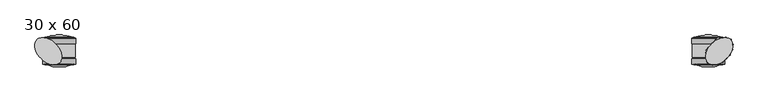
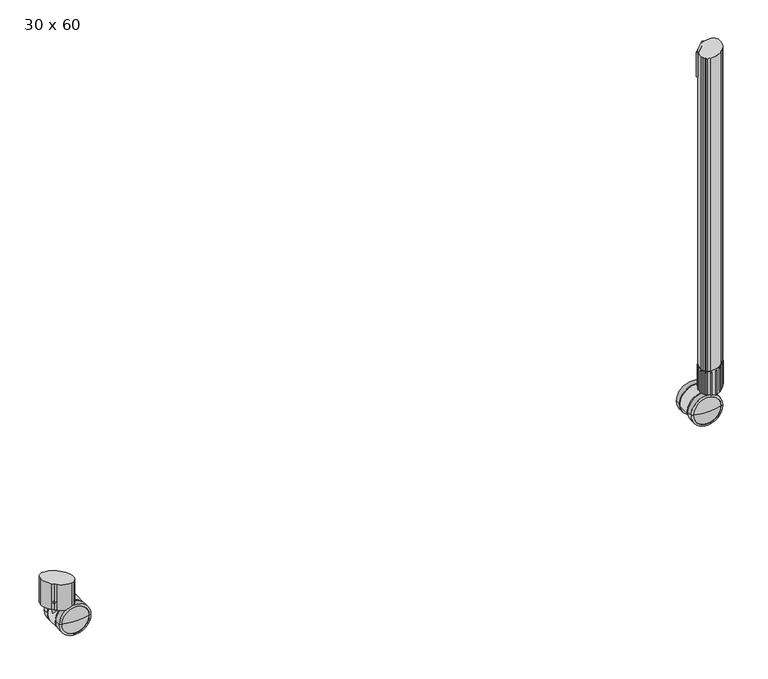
"""IFC4 building model written with IfcOpenShell, lengths in millimetres: furniture geometry, SmithSystem_AM_Desking_Education_Interchange_Student_Activity : 30 x 60."""

from ifc_helpers import new_model, si_unit, point, frame, frame_2d, origin, place, context, project, spatial, polyline, circle_curve, ellipse_curve, trimmed, segment, composite_curve, outline, extrude, source, transform, mapped, element, save
from ifc_brep_helpers import plane_surface, cylinder_surface, revolved_surface, advanced_brep


def furniture_30_x_60_b2621e60(model_context):
    return source(origin(), model_context, "Body", "SolidModel", [
        advanced_brep(
        [(1479.3682807, -686.5171568, 35.017382), (1479.3682807, -673.2758867, 35.017382), (1418.7629669, -673.2758867, 35.017382), (1418.7629669, -686.5171568, 35.017382), (1483.6326573, -686.5171568, 35.017382), (1414.4985903, -686.5171568, 35.017382), (1483.6326573, -674.7474734, 35.017382), (1414.4985903, -674.7474734, 35.017382)],
        [
            (0, 1),
            (1, 2, circle_curve(frame((1449.0656238, -673.2758867, 35.017382), z_axis=(0.0, 1.0, 0.0), x_axis=(-1.0000000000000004, 0.0, 0.0)), 30.3026569)),
            (2, 3),
            (3, 0, circle_curve(frame((1449.0656238, -686.5171568, 35.017382), z_axis=(0.0, -1.0, 0.0), x_axis=(-1.0000000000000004, 0.0, 0.0)), 30.3026569)),
            (2, 1, circle_curve(frame((1449.0656238, -673.2758867, 35.017382), z_axis=(0.0, 1.0, 0.0), x_axis=(-1.0000000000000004, 0.0, 0.0)), 30.3026569)),
            (0, 3, circle_curve(frame((1449.0656238, -686.5171568, 35.017382), z_axis=(0.0, -1.0, 0.0), x_axis=(-1.0000000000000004, 0.0, 0.0)), 30.3026569)),
            (4, 0),
            (3, 5),
            (5, 4, circle_curve(frame((1449.0656238, -686.5171568, 35.017382), z_axis=(0.0, -1.0, 0.0), x_axis=(-1.0000000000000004, 0.0, 0.0)), 34.5670335)),
            (4, 5, circle_curve(frame((1449.0656238, -686.5171568, 35.017382), z_axis=(0.0, -1.0, 0.0), x_axis=(-1.0000000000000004, 0.0, 0.0)), 34.5670335)),
            (6, 4),
            (5, 7),
            (7, 6, circle_curve(frame((1449.0656238, -674.7474734, 35.017382), z_axis=(0.0, -1.0, 0.0), x_axis=(-1.0000000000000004, 0.0, 0.0)), 34.5670335)),
            (6, 7, circle_curve(frame((1449.0656238, -674.7474734, 35.017382), z_axis=(0.0, -1.0, 0.0), x_axis=(-1.0000000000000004, 0.0, 0.0)), 34.5670335)),
            (1, 6),
            (7, 2),
        ],
        [
            revolved_surface(polyline([(1418.7629668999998, -673.2758867, 35.017382), (1418.7629668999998, -686.5171568, 35.017382)]), (1449.0656238, -686.5171568, 35.017382), (0.0, 1.0, 0.0)),
            plane_surface(frame((1449.0656238, -686.5171568, 35.017382), z_axis=(0.0, -1.0, 0.0), x_axis=(-1.0, 0.0, 0.0))),
            cylinder_surface(frame((1449.0656238, -686.5171568, 35.017382), z_axis=(0.0, 1.0, 0.0), x_axis=(-1.0000000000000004, 0.0, 0.0)), 34.5670335),
            revolved_surface(polyline([(1414.4985903, -674.7474734, 35.017382), (1418.7629669, -673.2758867, 35.017382)]), (1449.0656238, -686.5171568, 35.017382), (0.0, 1.0, 0.0)),
        ],
        [
            (0, [[1, 2, 3, 4]]),
            (0, [[-3, 5, -1, 6]]),
            (1, [[7, -4, 8, 9]]),
            (1, [[-8, -6, -7, 10]]),
            (2, [[11, -9, 12, 13]]),
            (2, [[-12, -10, -11, 14]]),
            (3, [[15, -13, 16, -2]]),
            (3, [[-16, -14, -15, -5]]),
        ],
    ),
        advanced_brep(
        [(1483.6326573, -730.1295585, 35.017382), (1479.3682807, -731.6011452, 35.017382), (1418.7629669, -731.6011452, 35.017382), (1414.4985903, -730.1295585, 35.017382), (1483.6326573, -718.3598751, 35.017382), (1414.4985903, -718.3598751, 35.017382), (1479.3682807, -718.3598751, 35.017382), (1418.7629669, -718.3598751, 35.017382)],
        [
            (0, 1),
            (1, 2, circle_curve(frame((1449.0656238, -731.6011452, 35.017382), z_axis=(0.0, 1.0, 0.0), x_axis=(-1.0000000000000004, 0.0, 0.0)), 30.3026569)),
            (2, 3),
            (3, 0, circle_curve(frame((1449.0656238, -730.1295585, 35.017382), z_axis=(0.0, -1.0, 0.0), x_axis=(-1.0000000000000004, 0.0, 0.0)), 34.5670335)),
            (2, 1, circle_curve(frame((1449.0656238, -731.6011452, 35.017382), z_axis=(0.0, 1.0, 0.0), x_axis=(-1.0000000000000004, 0.0, 0.0)), 30.3026569)),
            (0, 3, circle_curve(frame((1449.0656238, -730.1295585, 35.017382), z_axis=(0.0, -1.0, 0.0), x_axis=(-1.0000000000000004, 0.0, 0.0)), 34.5670335)),
            (4, 0),
            (3, 5),
            (5, 4, circle_curve(frame((1449.0656238, -718.3598751, 35.017382), z_axis=(0.0, -1.0, 0.0), x_axis=(-1.0000000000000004, 0.0, 0.0)), 34.5670335)),
            (4, 5, circle_curve(frame((1449.0656238, -718.3598751, 35.017382), z_axis=(0.0, -1.0, 0.0), x_axis=(-1.0000000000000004, 0.0, 0.0)), 34.5670335)),
            (6, 4),
            (5, 7),
            (7, 6, circle_curve(frame((1449.0656238, -718.3598751, 35.017382), z_axis=(0.0, -1.0, 0.0), x_axis=(-1.0000000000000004, 0.0, 0.0)), 30.3026569)),
            (6, 7, circle_curve(frame((1449.0656238, -718.3598751, 35.017382), z_axis=(0.0, -1.0, 0.0), x_axis=(-1.0000000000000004, 0.0, 0.0)), 30.3026569)),
            (1, 6),
            (7, 2),
        ],
        [
            revolved_surface(polyline([(1418.7629669, -731.6011452, 35.017382), (1414.4985903, -730.1295585, 35.017382)]), (1449.0656238, -686.5171568, 35.017382), (0.0, 1.0, 0.0)),
            cylinder_surface(frame((1449.0656238, -686.5171568, 35.017382), z_axis=(0.0, 1.0, 0.0), x_axis=(-1.0000000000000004, 0.0, 0.0)), 34.5670335),
            plane_surface(frame((1449.0656238, -718.3598751, 35.017382), z_axis=(0.0, 1.0, 0.0), x_axis=(-1.0, 0.0, 0.0))),
            revolved_surface(polyline([(1418.7629668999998, -718.3598751, 35.017382), (1418.7629668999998, -731.6011452, 35.017382)]), (1449.0656238, -686.5171568, 35.017382), (0.0, 1.0, 0.0)),
        ],
        [
            (0, [[1, 2, 3, 4]]),
            (0, [[-3, 5, -1, 6]]),
            (1, [[7, -4, 8, 9]]),
            (1, [[-8, -6, -7, 10]]),
            (2, [[11, -9, 12, 13]]),
            (2, [[-12, -10, -11, 14]]),
            (3, [[15, -13, 16, -2]]),
            (3, [[-16, -14, -15, -5]]),
        ],
    ),
        extrude(outline(composite_curve([segment(polyline([(19.2150301, 1452.4697558), (19.2150301, 1479.476395)]), True, "CONTINUOUS"), segment(trimmed(circle_curve(frame_2d((35.017382, 1449.0656238)), 34.2714069), [point((19.2150301, 1479.476395))], [point((30.4371053, 1415.1016665))], False, "CARTESIAN"), True, "CONTINUOUS"), segment(polyline([(30.4371053, 1415.1016665), (25.5146264, 1423.9644339), (25.5146264, 1446.1701594), (19.2150301, 1452.4697558)]), True, "CONTINUOUS")], self_intersect=False)), frame((0.0, -715.2347519, 0.0), z_axis=(0.0, 1.0, 0.0), x_axis=(0.0, 0.0, 1.0)), (0.0, 0.0, 1.0), 26.9875),
        advanced_brep(
        [(1479.3682807, -686.5171568, 35.017382), (1449.0656238, -686.5171568, 35.017382), (1418.7629669, -686.5171568, 35.017382), (1449.0656238, -668.1943698, 35.017382), (1479.3682807, -673.2758867, 35.017382), (1418.7629669, -673.2758867, 35.017382)],
        [
            (0, 1),
            (1, 2),
            (2, 0, circle_curve(frame((1449.0656238, -686.5171568, 35.017382), z_axis=(0.0, -1.0, 0.0), x_axis=(-1.0000000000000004, 0.0, 0.0)), 30.3026569)),
            (0, 2, circle_curve(frame((1449.0656238, -686.5171568, 35.017382), z_axis=(0.0, -1.0, 0.0), x_axis=(-1.0000000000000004, 0.0, 0.0)), 30.3026569)),
            (3, 4, circle_curve(frame((1449.0656238, -761.0871862, 35.017382), z_axis=(0.0, 0.0, -1.0000000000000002), x_axis=(0.0, -1.0, 0.0)), 92.8928164)),
            (4, 5, circle_curve(frame((1449.0656238, -673.2758867, 35.017382), z_axis=(0.0, 1.0, 0.0), x_axis=(-1.0000000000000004, 0.0, 0.0)), 30.3026569)),
            (5, 3, circle_curve(frame((1449.0656238, -761.0871862, 35.017382), z_axis=(0.0, 0.0, -1.0000000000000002), x_axis=(0.0, -1.0, 0.0)), 92.8928164)),
            (5, 4, circle_curve(frame((1449.0656238, -673.2758867, 35.017382), z_axis=(0.0, 1.0, 0.0), x_axis=(-1.0000000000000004, 0.0, 0.0)), 30.3026569)),
            (4, 0),
            (2, 5),
        ],
        [
            plane_surface(frame((1449.0656238, -686.5171568, 35.017382), z_axis=(0.0, -1.0, 0.0), x_axis=(-1.0, 0.0, 0.0))),
            revolved_surface(trimmed(ellipse_curve(frame((1449.0656238, -761.0871862, 35.017382), z_axis=(0.0, 0.0, -1.0000000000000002), x_axis=(0.0, -1.0, 0.0)), 92.8928164, 92.8928164), [point((1418.7629669, -673.2758867, 35.017382))], [point((1449.0656238, -668.1943698, 35.017382))], True, "CARTESIAN"), (1449.0656238, -686.5171568, 35.017382), (0.0, 1.0, 0.0)),
            cylinder_surface(frame((1449.0656238, -686.5171568, 35.017382), z_axis=(0.0, 1.0, 0.0), x_axis=(-1.0000000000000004, 0.0, 0.0)), 30.3026569),
        ],
        [
            (0, [[1, 2, 3]]),
            (0, [[-2, -1, 4]]),
            (1, [[5, 6, 7]]),
            (1, [[-7, 8, -5]]),
            (2, [[9, -3, 10, -6]]),
            (2, [[-10, -4, -9, -8]]),
        ],
    ),
        advanced_brep(
        [(1479.3682807, -717.1194939, 35.017382), (1479.3682807, -730.360764, 35.017382), (1418.7629669, -730.360764, 35.017382), (1418.7629669, -717.1194939, 35.017382), (1449.0656238, -735.4422809, 35.017382), (1449.0656238, -717.1194939, 35.017382)],
        [
            (0, 1),
            (1, 2, circle_curve(frame((1449.0656238, -730.360764, 35.017382), z_axis=(0.0, 1.0, 0.0), x_axis=(-1.0000000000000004, 0.0, 0.0)), 30.3026569)),
            (2, 3),
            (3, 0, circle_curve(frame((1449.0656238, -717.1194939, 35.017382), z_axis=(0.0, -1.0, 0.0), x_axis=(-1.0000000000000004, 0.0, 0.0)), 30.3026569)),
            (2, 1, circle_curve(frame((1449.0656238, -730.360764, 35.017382), z_axis=(0.0, 1.0, 0.0), x_axis=(-1.0000000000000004, 0.0, 0.0)), 30.3026569)),
            (0, 3, circle_curve(frame((1449.0656238, -717.1194939, 35.017382), z_axis=(0.0, -1.0, 0.0), x_axis=(-1.0000000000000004, 0.0, 0.0)), 30.3026569)),
            (1, 4, circle_curve(frame((1449.0656238, -642.5494645, 35.017382), z_axis=(0.0, 0.0, -1.0000000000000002), x_axis=(0.0, -1.0, 0.0)), 92.8928164)),
            (4, 2, circle_curve(frame((1449.0656238, -642.5494645, 35.017382), z_axis=(0.0, 0.0, -1.0000000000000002), x_axis=(0.0, -1.0, 0.0)), 92.8928164)),
            (5, 0),
            (3, 5),
        ],
        [
            cylinder_surface(frame((1449.0656238, -686.5171568, 35.017382), z_axis=(0.0, 1.0, 0.0), x_axis=(-1.0000000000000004, 0.0, 0.0)), 30.3026569),
            revolved_surface(trimmed(ellipse_curve(frame((1449.0656238, -642.5494645, 35.017382), z_axis=(0.0, 0.0, -1.0000000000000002), x_axis=(0.0, -1.0, 0.0)), 92.8928164, 92.8928164), [point((1449.0656238, -735.4422809, 35.017382))], [point((1418.7629669, -730.360764, 35.017382))], True, "CARTESIAN"), (1449.0656238, -686.5171568, 35.017382), (0.0, 1.0, 0.0)),
            plane_surface(frame((1449.0656238, -717.1194939, 35.017382), z_axis=(0.0, 1.0, 0.0), x_axis=(-1.0, 0.0, 0.0))),
        ],
        [
            (0, [[1, 2, 3, 4]]),
            (0, [[-3, 5, -1, 6]]),
            (1, [[7, 8, -2]]),
            (1, [[-8, -7, -5]]),
            (2, [[9, -4, 10]]),
            (2, [[-10, -6, -9]]),
        ],
    ),
        advanced_brep(
        [(1472.3098504, -702.4385159, 82.55), (1487.4315397, -717.5602052, 82.55), (1457.1881611, -687.3168266, 82.55), (1479.1455485, -709.274214, 44.141232), (1472.3098504, -702.4385159, 44.141232), (1465.4741524, -695.6028179, 44.141232), (1479.1455485, -709.274214, 70.5739), (1465.4741524, -695.6028179, 70.5739), (1475.4087581, -705.5374236, 70.5739), (1469.2109428, -699.3396083, 70.5739), (1475.4087581, -705.5374236, 72.4789), (1469.2109428, -699.3396083, 72.4789), (1479.1455485, -709.274214, 72.4789), (1465.4741524, -695.6028179, 72.4789), (1479.1455485, -709.274214, 77.5589), (1465.4741524, -695.6028179, 77.5589), (1487.4315397, -717.5602052, 77.5589), (1457.1881611, -687.3168266, 77.5589)],
        [
            (0, 1),
            (1, 2, circle_curve(frame((1472.3098504, -702.4385159, 82.55), z_axis=(0.0, 0.0, 1.0), x_axis=(-0.7071067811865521, 0.707106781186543, 0.0)), 21.3852981)),
            (2, 0),
            (2, 1, circle_curve(frame((1472.3098504, -702.4385159, 82.55), z_axis=(0.0, 0.0, 1.0), x_axis=(-0.7071067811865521, 0.707106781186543, 0.0)), 21.3852981)),
            (3, 4),
            (4, 5),
            (5, 3, circle_curve(frame((1472.3098504, -702.4385159, 44.141232), z_axis=(0.0, 0.0, -1.0), x_axis=(-0.7071067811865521, 0.707106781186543, 0.0)), 9.6671369)),
            (3, 5, circle_curve(frame((1472.3098504, -702.4385159, 44.141232), z_axis=(0.0, 0.0, -1.0), x_axis=(-0.7071067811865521, 0.707106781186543, 0.0)), 9.6671369)),
            (6, 3),
            (5, 7),
            (7, 6, circle_curve(frame((1472.3098504, -702.4385159, 70.5739), z_axis=(0.0, 0.0, -1.0), x_axis=(-0.7071067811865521, 0.707106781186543, 0.0)), 9.6671369)),
            (6, 7, circle_curve(frame((1472.3098504, -702.4385159, 70.5739), z_axis=(0.0, 0.0, -1.0), x_axis=(-0.7071067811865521, 0.707106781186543, 0.0)), 9.6671369)),
            (8, 6),
            (7, 9),
            (9, 8, circle_curve(frame((1472.3098504, -702.4385159, 70.5739), z_axis=(0.0, 0.0, -1.0), x_axis=(-0.7071067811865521, 0.707106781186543, 0.0)), 4.3825172)),
            (8, 9, circle_curve(frame((1472.3098504, -702.4385159, 70.5739), z_axis=(0.0, 0.0, -1.0), x_axis=(-0.7071067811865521, 0.707106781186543, 0.0)), 4.3825172)),
            (10, 8),
            (9, 11),
            (11, 10, circle_curve(frame((1472.3098504, -702.4385159, 72.4789), z_axis=(0.0, 0.0, -1.0), x_axis=(-0.7071067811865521, 0.707106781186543, 0.0)), 4.3825172)),
            (10, 11, circle_curve(frame((1472.3098504, -702.4385159, 72.4789), z_axis=(0.0, 0.0, -1.0), x_axis=(-0.7071067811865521, 0.707106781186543, 0.0)), 4.3825172)),
            (12, 10),
            (11, 13),
            (13, 12, circle_curve(frame((1472.3098504, -702.4385159, 72.4789), z_axis=(0.0, 0.0, -1.0), x_axis=(-0.7071067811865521, 0.707106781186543, 0.0)), 9.6671369)),
            (12, 13, circle_curve(frame((1472.3098504, -702.4385159, 72.4789), z_axis=(0.0, 0.0, -1.0), x_axis=(-0.7071067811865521, 0.707106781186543, 0.0)), 9.6671369)),
            (14, 12),
            (13, 15),
            (15, 14, circle_curve(frame((1472.3098504, -702.4385159, 77.5589), z_axis=(0.0, 0.0, -1.0), x_axis=(-0.7071067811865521, 0.707106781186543, 0.0)), 9.6671369)),
            (14, 15, circle_curve(frame((1472.3098504, -702.4385159, 77.5589), z_axis=(0.0, 0.0, -1.0), x_axis=(-0.7071067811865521, 0.707106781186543, 0.0)), 9.6671369)),
            (16, 14),
            (15, 17),
            (17, 16, circle_curve(frame((1472.3098504, -702.4385159, 77.5589), z_axis=(0.0, 0.0, -1.0), x_axis=(-0.7071067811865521, 0.707106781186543, 0.0)), 21.3852981)),
            (16, 17, circle_curve(frame((1472.3098504, -702.4385159, 77.5589), z_axis=(0.0, 0.0, -1.0), x_axis=(-0.7071067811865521, 0.707106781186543, 0.0)), 21.3852981)),
            (1, 16),
            (17, 2),
        ],
        [
            plane_surface(frame((1472.3098504, -702.4385159, 82.55), z_axis=(0.0, 0.0, 1.0000000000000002), x_axis=(-0.7071067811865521, 0.707106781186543, 0.0))),
            plane_surface(frame((1472.3098504, -702.4385159, 44.141232), z_axis=(0.0, 0.0, -1.0000000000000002), x_axis=(-0.7071067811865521, 0.707106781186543, 0.0))),
            cylinder_surface(frame((1472.3098504, -702.4385159, 56.841232), z_axis=(0.0, 0.0, 1.0), x_axis=(-0.7071067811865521, 0.707106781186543, 0.0)), 9.6671369),
            plane_surface(frame((1472.3098504, -702.4385159, 70.5739), z_axis=(0.0, 0.0, 1.0000000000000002), x_axis=(-0.7071067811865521, 0.707106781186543, 0.0))),
            cylinder_surface(frame((1472.3098504, -702.4385159, 56.841232), z_axis=(0.0, 0.0, 1.0), x_axis=(-0.7071067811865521, 0.707106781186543, 0.0)), 4.3825172),
            plane_surface(frame((1472.3098504, -702.4385159, 72.4789), z_axis=(0.0, 0.0, -1.0000000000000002), x_axis=(-0.7071067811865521, 0.707106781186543, 0.0))),
            plane_surface(frame((1472.3098504, -702.4385159, 77.5589), z_axis=(0.0, 0.0, -1.0000000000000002), x_axis=(-0.7071067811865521, 0.707106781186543, 0.0))),
            cylinder_surface(frame((1472.3098504, -702.4385159, 56.841232), z_axis=(0.0, 0.0, 1.0), x_axis=(-0.7071067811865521, 0.707106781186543, 0.0)), 21.3852981),
        ],
        [
            (0, [[1, 2, 3]]),
            (0, [[-3, 4, -1]]),
            (1, [[5, 6, 7]]),
            (1, [[-6, -5, 8]]),
            (2, [[9, -7, 10, 11]]),
            (2, [[-10, -8, -9, 12]]),
            (3, [[13, -11, 14, 15]]),
            (3, [[-14, -12, -13, 16]]),
            (4, [[17, -15, 18, 19]]),
            (4, [[-18, -16, -17, 20]]),
            (5, [[21, -19, 22, 23]]),
            (5, [[-22, -20, -21, 24]]),
            (2, [[25, -23, 26, 27]]),
            (2, [[-26, -24, -25, 28]]),
            (6, [[29, -27, 30, 31]]),
            (6, [[-30, -28, -29, 32]]),
            (7, [[33, -31, 34, -2]]),
            (7, [[-34, -32, -33, -4]]),
        ],
    ),
        extrude(outline(composite_curve([segment(polyline([(1453.4549731, -690.7678435), (1457.0470756, -687.175741), (1460.639178, -683.5836386)]), True, "CONTINUOUS"), segment(trimmed(circle_curve(frame_2d((1483.6806347, -706.6250953)), 32.5855406), [point((1460.639178, -683.5836386))], [point((1487.6518132, -674.2824424))], False, "CARTESIAN"), True, "CONTINUOUS"), segment(trimmed(circle_curve(frame_2d((1485.2540831, -693.8103864)), 19.6745954), [point((1487.6518132, -674.2824424))], [point((1492.8048334, -675.6423959))], False, "CARTESIAN"), True, "CONTINUOUS"), segment(trimmed(circle_curve(frame_2d((1489.3695797, -683.9080191)), 8.9510611), [point((1492.8048334, -675.6423959))], [point((1495.6989357, -677.5786631))], False, "CARTESIAN"), True, "CONTINUOUS"), segment(polyline([(1495.6989357, -677.5786631), (1496.4343195, -678.3140469), (1497.1697032, -679.0494307)]), True, "CONTINUOUS"), segment(trimmed(circle_curve(frame_2d((1490.8403472, -685.3787867)), 8.9510611), [point((1497.1697032, -679.0494307))], [point((1499.1059704, -681.943533))], False, "CARTESIAN"), True, "CONTINUOUS"), segment(trimmed(circle_curve(frame_2d((1480.93798, -689.4942832)), 19.6745954), [point((1499.1059704, -681.943533))], [point((1500.465924, -687.0965532))], False, "CARTESIAN"), True, "CONTINUOUS"), segment(trimmed(circle_curve(frame_2d((1468.123271, -691.0677316)), 32.5855406), [point((1500.465924, -687.0965532))], [point((1491.1647278, -714.1091884))], False, "CARTESIAN"), True, "CONTINUOUS"), segment(polyline([(1491.1647278, -714.1091884), (1487.5726253, -717.7012908), (1483.9805229, -721.2933933)]), True, "CONTINUOUS"), segment(trimmed(circle_curve(frame_2d((1460.9390661, -698.2519365)), 32.5855406), [point((1483.9805229, -721.2933933))], [point((1456.9678877, -730.5945895))], False, "CARTESIAN"), True, "CONTINUOUS"), segment(trimmed(circle_curve(frame_2d((1459.3656177, -711.0666455)), 19.6745954), [point((1456.9678877, -730.5945895))], [point((1451.8148675, -729.2346359))], False, "CARTESIAN"), True, "CONTINUOUS"), segment(trimmed(circle_curve(frame_2d((1455.2501212, -720.9690127)), 8.9510611), [point((1451.8148675, -729.2346359))], [point((1448.9207652, -727.2983687))], False, "CARTESIAN"), True, "CONTINUOUS"), segment(polyline([(1448.9207652, -727.2983687), (1448.1853814, -726.5629849), (1447.4499976, -725.8276012)]), True, "CONTINUOUS"), segment(trimmed(circle_curve(frame_2d((1453.7793536, -719.4982452)), 8.9510611), [point((1447.4499976, -725.8276012))], [point((1445.5137305, -722.9334989))], False, "CARTESIAN"), True, "CONTINUOUS"), segment(trimmed(circle_curve(frame_2d((1463.6817209, -715.3827486)), 19.6745954), [point((1445.5137305, -722.9334989))], [point((1444.1537769, -717.7804787))], False, "CARTESIAN"), True, "CONTINUOUS"), segment(trimmed(circle_curve(frame_2d((1476.4964298, -713.8093002)), 32.5855406), [point((1444.1537769, -717.7804787))], [point((1453.4549731, -690.7678435))], False, "CARTESIAN"), True, "CONTINUOUS")], self_intersect=False)), frame((0.0, 0.0, 63.4997351), z_axis=(0.0, 0.0, 1.0), x_axis=(1.0, 0.0, 0.0)), (0.0, 0.0, 1.0), 59.42631),
        extrude(outline(composite_curve([segment(trimmed(circle_curve(frame_2d((1487.5726253, -717.7012908)), 1.27), [point((1488.4706509, -716.8032652))], [point((1486.6745997, -718.5993164))], False, "CARTESIAN"), True, "CONTINUOUS"), segment(polyline([(1486.6745997, -718.5993164), (1487.5726253, -717.7012908), (1488.4706509, -716.8032652)]), True, "CONTINUOUS")], self_intersect=False)), frame((0.0, 0.0, 67.2639757), z_axis=(0.0, 0.0, 1.0), x_axis=(1.0, 0.0, 0.0)), (0.0, 0.0, 1.0), 52.9554897),
        extrude(outline(composite_curve([segment(trimmed(circle_curve(frame_2d((1496.4080101, -678.3403563)), 1.27), [point((1495.5099845, -677.4423306))], [point((1497.3060357, -679.2383819))], False, "CARTESIAN"), True, "CONTINUOUS"), segment(polyline([(1497.3060357, -679.2383819), (1496.4080101, -678.3403563), (1495.5099845, -677.4423306)]), True, "CONTINUOUS")], self_intersect=False)), frame((0.0, 0.0, 67.2639757), z_axis=(0.0, 0.0, 1.0), x_axis=(1.0, 0.0, 0.0)), (0.0, 0.0, 1.0), 52.9554897),
        extrude(outline(composite_curve([segment(polyline([(1447.3136652, -725.63865), (1448.2116908, -726.5366756), (1449.1097164, -727.4347012)]), True, "CONTINUOUS"), segment(trimmed(circle_curve(frame_2d((1448.2116908, -726.5366756)), 1.27), [point((1449.1097164, -727.4347012))], [point((1447.3136652, -725.63865))], False, "CARTESIAN"), True, "CONTINUOUS")], self_intersect=False)), frame((0.0, 0.0, 67.2639757), z_axis=(0.0, 0.0, 1.0), x_axis=(1.0, 0.0, 0.0)), (0.0, 0.0, 1.0), 52.9554897),
        extrude(outline(composite_curve([segment(polyline([(1456.8120338, -730.5560515), (1458.0779787, -730.6574596), (1459.3439236, -730.7588676)]), True, "CONTINUOUS"), segment(trimmed(circle_curve(frame_2d((1458.0779787, -730.6574596)), 1.27), [point((1459.3439236, -730.7588676))], [point((1456.8120338, -730.5560515))], False, "CARTESIAN"), True, "CONTINUOUS")], self_intersect=False)), frame((0.0, 0.0, 67.2639757), z_axis=(0.0, 0.0, 1.0), x_axis=(1.0, 0.0, 0.0)), (0.0, 0.0, 1.0), 52.9554897),
        extrude(outline(composite_curve([segment(polyline([(1467.8909581, -730.039674), (1469.1209477, -729.7234059), (1470.3509373, -729.4071377)]), True, "CONTINUOUS"), segment(trimmed(circle_curve(frame_2d((1469.1209477, -729.7234059)), 1.27), [point((1470.3509373, -729.4071377))], [point((1467.8909581, -730.039674))], False, "CARTESIAN"), True, "CONTINUOUS")], self_intersect=False)), frame((0.0, 0.0, 67.2639757), z_axis=(0.0, 0.0, 1.0), x_axis=(1.0, 0.0, 0.0)), (0.0, 0.0, 1.0), 52.9554897),
        extrude(outline(composite_curve([segment(polyline([(1478.2294057, -725.8418329), (1479.2770478, -725.1239568), (1480.3246899, -724.4060807)]), True, "CONTINUOUS"), segment(trimmed(circle_curve(frame_2d((1479.2770478, -725.1239568)), 1.27), [point((1480.3246899, -724.4060807))], [point((1478.2294057, -725.8418329))], False, "CARTESIAN"), True, "CONTINUOUS")], self_intersect=False)), frame((0.0, 0.0, 67.2639757), z_axis=(0.0, 0.0, 1.0), x_axis=(1.0, 0.0, 0.0)), (0.0, 0.0, 1.0), 52.9554897),
        extrude(outline(composite_curve([segment(trimmed(circle_curve(frame_2d((1500.5287941, -688.2066442)), 1.27), [point((1500.427386, -686.9406993))], [point((1500.6302021, -689.4725891))], False, "CARTESIAN"), True, "CONTINUOUS"), segment(polyline([(1500.6302021, -689.4725891), (1500.5287941, -688.2066442), (1500.427386, -686.9406993)]), True, "CONTINUOUS")], self_intersect=False)), frame((0.0, 0.0, 67.2639757), z_axis=(0.0, 0.0, 1.0), x_axis=(1.0, 0.0, 0.0)), (0.0, 0.0, 1.0), 52.9554897),
        extrude(outline(composite_curve([segment(trimmed(circle_curve(frame_2d((1499.5947404, -699.2496132)), 1.27), [point((1499.9110085, -698.0196236))], [point((1499.2784722, -700.4796028))], False, "CARTESIAN"), True, "CONTINUOUS"), segment(polyline([(1499.2784722, -700.4796028), (1499.5947404, -699.2496132), (1499.9110085, -698.0196236)]), True, "CONTINUOUS")], self_intersect=False)), frame((0.0, 0.0, 67.2639757), z_axis=(0.0, 0.0, 1.0), x_axis=(1.0, 0.0, 0.0)), (0.0, 0.0, 1.0), 52.9554897),
        extrude(outline(composite_curve([segment(trimmed(circle_curve(frame_2d((1494.9952913, -709.4057133)), 1.27), [point((1495.7131674, -708.3580712))], [point((1494.2774152, -710.4533554))], False, "CARTESIAN"), True, "CONTINUOUS"), segment(polyline([(1494.2774152, -710.4533554), (1494.9952913, -709.4057133), (1495.7131674, -708.3580712)]), True, "CONTINUOUS")], self_intersect=False)), frame((0.0, 0.0, 67.2639757), z_axis=(0.0, 0.0, 1.0), x_axis=(1.0, 0.0, 0.0)), (0.0, 0.0, 1.0), 52.9554897),
        extrude(outline(composite_curve([segment(polyline([(1457.9451012, -686.2777154), (1457.0470756, -687.175741), (1456.1490499, -688.0737667)]), True, "CONTINUOUS"), segment(trimmed(circle_curve(frame_2d((1457.0470756, -687.175741)), 1.27), [point((1456.1490499, -688.0737667))], [point((1457.9451012, -686.2777154))], False, "CARTESIAN"), True, "CONTINUOUS")], self_intersect=False)), frame((0.0, 0.0, 67.2639757), z_axis=(0.0, 0.0, 1.0), x_axis=(1.0, 0.0, 0.0)), (0.0, 0.0, 1.0), 52.9554897),
        extrude(outline(composite_curve([segment(trimmed(circle_curve(frame_2d((1444.0909068, -716.6703877)), 1.27), [point((1444.1923149, -717.9363325))], [point((1443.9894988, -715.4044428))], False, "CARTESIAN"), True, "CONTINUOUS"), segment(polyline([(1443.9894988, -715.4044428), (1444.0909068, -716.6703877), (1444.1923149, -717.9363325)]), True, "CONTINUOUS")], self_intersect=False)), frame((0.0, 0.0, 67.2639757), z_axis=(0.0, 0.0, 1.0), x_axis=(1.0, 0.0, 0.0)), (0.0, 0.0, 1.0), 52.9554897),
        extrude(outline(composite_curve([segment(trimmed(circle_curve(frame_2d((1445.0249605, -705.6274187)), 1.27), [point((1444.7086924, -706.8574083))], [point((1445.3412287, -704.397429))], False, "CARTESIAN"), True, "CONTINUOUS"), segment(polyline([(1445.3412287, -704.397429), (1445.0249605, -705.6274187), (1444.7086924, -706.8574083)]), True, "CONTINUOUS")], self_intersect=False)), frame((0.0, 0.0, 67.2639757), z_axis=(0.0, 0.0, 1.0), x_axis=(1.0, 0.0, 0.0)), (0.0, 0.0, 1.0), 52.9554897),
        extrude(outline(composite_curve([segment(trimmed(circle_curve(frame_2d((1449.6244096, -695.4713185)), 1.27), [point((1448.9065335, -696.5189606))], [point((1450.3422857, -694.4236765))], False, "CARTESIAN"), True, "CONTINUOUS"), segment(polyline([(1450.3422857, -694.4236765), (1449.6244096, -695.4713185), (1448.9065335, -696.5189606)]), True, "CONTINUOUS")], self_intersect=False)), frame((0.0, 0.0, 67.2639757), z_axis=(0.0, 0.0, 1.0), x_axis=(1.0, 0.0, 0.0)), (0.0, 0.0, 1.0), 52.9554897),
        extrude(outline(composite_curve([segment(polyline([(1487.807667, -674.3209803), (1486.5417222, -674.2195723), (1485.2757773, -674.1181643)]), True, "CONTINUOUS"), segment(trimmed(circle_curve(frame_2d((1486.5417222, -674.2195723)), 1.27), [point((1485.2757773, -674.1181643))], [point((1487.807667, -674.3209803))], False, "CARTESIAN"), True, "CONTINUOUS")], self_intersect=False)), frame((0.0, 0.0, 67.2639757), z_axis=(0.0, 0.0, 1.0), x_axis=(1.0, 0.0, 0.0)), (0.0, 0.0, 1.0), 52.9554897),
        extrude(outline(composite_curve([segment(polyline([(1476.7287428, -674.8373578), (1475.4987532, -675.153626), (1474.2687635, -675.4698941)]), True, "CONTINUOUS"), segment(trimmed(circle_curve(frame_2d((1475.4987532, -675.153626)), 1.27), [point((1474.2687635, -675.4698941))], [point((1476.7287428, -674.8373578))], False, "CARTESIAN"), True, "CONTINUOUS")], self_intersect=False)), frame((0.0, 0.0, 67.2639757), z_axis=(0.0, 0.0, 1.0), x_axis=(1.0, 0.0, 0.0)), (0.0, 0.0, 1.0), 52.9554897),
        extrude(outline(composite_curve([segment(polyline([(1466.3902951, -679.035199), (1465.3426531, -679.7530751), (1464.295011, -680.4709511)]), True, "CONTINUOUS"), segment(trimmed(circle_curve(frame_2d((1465.3426531, -679.7530751)), 1.27), [point((1464.295011, -680.4709511))], [point((1466.3902951, -679.035199))], False, "CARTESIAN"), True, "CONTINUOUS")], self_intersect=False)), frame((0.0, 0.0, 67.2639757), z_axis=(0.0, 0.0, 1.0), x_axis=(1.0, 0.0, 0.0)), (0.0, 0.0, 1.0), 52.9554897),
        extrude(outline(composite_curve([segment(trimmed(circle_curve(frame_2d((1460.9390661, -698.2519365)), 32.5855406), [point((1483.9805229, -721.2933933))], [point((1456.9678877, -730.5945895))], False, "CARTESIAN"), True, "CONTINUOUS"), segment(trimmed(circle_curve(frame_2d((1459.3656177, -711.0666455)), 19.6745954), [point((1456.9678877, -730.5945895))], [point((1451.8148675, -729.2346359))], False, "CARTESIAN"), True, "CONTINUOUS"), segment(trimmed(circle_curve(frame_2d((1455.2501212, -720.9690127)), 8.9510611), [point((1451.8148675, -729.2346359))], [point((1448.9207652, -727.2983687))], False, "CARTESIAN"), True, "CONTINUOUS"), segment(polyline([(1448.9207652, -727.2983687), (1448.1853814, -726.5629849), (1447.4499976, -725.8276012)]), True, "CONTINUOUS"), segment(trimmed(circle_curve(frame_2d((1453.7793536, -719.4982452)), 8.9510611), [point((1447.4499976, -725.8276012))], [point((1445.5137305, -722.9334989))], False, "CARTESIAN"), True, "CONTINUOUS"), segment(trimmed(circle_curve(frame_2d((1463.6817209, -715.3827486)), 19.6745954), [point((1445.5137305, -722.9334989))], [point((1444.1537769, -717.7804787))], False, "CARTESIAN"), True, "CONTINUOUS"), segment(trimmed(circle_curve(frame_2d((1476.4964298, -713.8093002)), 32.5855406), [point((1444.1537769, -717.7804787))], [point((1453.4549731, -690.7678435))], False, "CARTESIAN"), True, "CONTINUOUS"), segment(polyline([(1453.4549731, -690.7678435), (1457.0470756, -687.175741), (1460.639178, -683.5836386)]), True, "CONTINUOUS"), segment(trimmed(circle_curve(frame_2d((1483.6806347, -706.6250953)), 32.5855406), [point((1460.639178, -683.5836386))], [point((1487.6518132, -674.2824424))], False, "CARTESIAN"), True, "CONTINUOUS"), segment(trimmed(circle_curve(frame_2d((1485.2540831, -693.8103864)), 19.6745954), [point((1487.6518132, -674.2824424))], [point((1492.8048334, -675.6423959))], False, "CARTESIAN"), True, "CONTINUOUS"), segment(trimmed(circle_curve(frame_2d((1489.3695797, -683.9080191)), 8.9510611), [point((1492.8048334, -675.6423959))], [point((1495.6989357, -677.5786631))], False, "CARTESIAN"), True, "CONTINUOUS"), segment(polyline([(1495.6989357, -677.5786631), (1496.4343195, -678.3140469), (1497.1697032, -679.0494307)]), True, "CONTINUOUS"), segment(trimmed(circle_curve(frame_2d((1490.8403472, -685.3787867)), 8.9510611), [point((1497.1697032, -679.0494307))], [point((1499.1059704, -681.943533))], False, "CARTESIAN"), True, "CONTINUOUS"), segment(trimmed(circle_curve(frame_2d((1480.93798, -689.4942832)), 19.6745954), [point((1499.1059704, -681.943533))], [point((1500.465924, -687.0965532))], False, "CARTESIAN"), True, "CONTINUOUS"), segment(trimmed(circle_curve(frame_2d((1468.123271, -691.0677316)), 32.5855406), [point((1500.465924, -687.0965532))], [point((1491.1647278, -714.1091884))], False, "CARTESIAN"), True, "CONTINUOUS"), segment(polyline([(1491.1647278, -714.1091884), (1487.5726253, -717.7012908), (1483.9805229, -721.2933933)]), True, "CONTINUOUS")], self_intersect=False)), frame((0.0, 0.0, 122.9260451), z_axis=(0.0, 0.0, 1.0), x_axis=(1.0, 0.0, 0.0)), (0.0, 0.0, 1.0), 719.5839191),
        extrude(outline(polyline([(1473.606676, -676.8390473), (1446.7650478, -703.6806755), (1443.4201876, -700.3358152), (1470.2618157, -673.4941871), (1473.606676, -676.8390473)])), frame((0.0, 0.0, 786.4834421), z_axis=(0.0, 0.0, 1.0), x_axis=(1.0, 0.0, 0.0)), (0.0, 0.0, 1.0), 56.0265221),
        advanced_brep(
        [(44.3181701, -686.5171568, 35.017382), (104.9234839, -686.5171568, 35.017382), (104.9234839, -673.2758867, 35.017382), (44.3181701, -673.2758867, 35.017382), (40.0537935, -686.5171568, 35.017382), (109.1878605, -686.5171568, 35.017382), (40.0537935, -674.7474734, 35.017382), (109.1878605, -674.7474734, 35.017382)],
        [
            (0, 1, circle_curve(frame((74.620827, -686.5171568, 35.017382), z_axis=(0.0, -1.0, 0.0), x_axis=(1.0000000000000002, 0.0, 0.0)), 30.3026569)),
            (1, 2),
            (2, 3, circle_curve(frame((74.620827, -673.2758867, 35.017382), z_axis=(0.0, 1.0, 0.0), x_axis=(1.0000000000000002, 0.0, 0.0)), 30.3026569)),
            (3, 0),
            (1, 0, circle_curve(frame((74.620827, -686.5171568, 35.017382), z_axis=(0.0, -1.0, 0.0), x_axis=(1.0000000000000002, 0.0, 0.0)), 30.3026569)),
            (3, 2, circle_curve(frame((74.620827, -673.2758867, 35.017382), z_axis=(0.0, 1.0, 0.0), x_axis=(1.0000000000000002, 0.0, 0.0)), 30.3026569)),
            (4, 5, circle_curve(frame((74.620827, -686.5171568, 35.017382), z_axis=(0.0, -1.0, 0.0), x_axis=(1.0000000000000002, 0.0, 0.0)), 34.5670335)),
            (5, 1),
            (0, 4),
            (5, 4, circle_curve(frame((74.620827, -686.5171568, 35.017382), z_axis=(0.0, -1.0, 0.0), x_axis=(1.0000000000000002, 0.0, 0.0)), 34.5670335)),
            (6, 7, circle_curve(frame((74.620827, -674.7474734, 35.017382), z_axis=(0.0, -1.0, 0.0), x_axis=(1.0000000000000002, 0.0, 0.0)), 34.5670335)),
            (7, 5),
            (4, 6),
            (7, 6, circle_curve(frame((74.620827, -674.7474734, 35.017382), z_axis=(0.0, -1.0, 0.0), x_axis=(1.0000000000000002, 0.0, 0.0)), 34.5670335)),
            (2, 7),
            (6, 3),
        ],
        [
            revolved_surface(polyline([(104.92348390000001, -673.2758867, 35.017382), (104.92348390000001, -686.5171568, 35.017382)]), (74.620827, -686.5171568, 35.017382), (0.0, 1.0, 0.0)),
            plane_surface(frame((74.620827, -686.5171568, 35.017382), z_axis=(0.0, -1.0, 0.0), x_axis=(1.0, 0.0, 0.0))),
            cylinder_surface(frame((74.620827, -686.5171568, 35.017382), z_axis=(0.0, 1.0, 0.0), x_axis=(1.0000000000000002, 0.0, 0.0)), 34.5670335),
            revolved_surface(polyline([(109.1878605, -674.7474734, 35.017382), (104.9234839, -673.2758867, 35.017382)]), (74.620827, -686.5171568, 35.017382), (0.0, 1.0, 0.0)),
        ],
        [
            (0, [[1, 2, 3, 4]]),
            (0, [[5, -4, 6, -2]]),
            (1, [[7, 8, -1, 9]]),
            (1, [[10, -9, -5, -8]]),
            (2, [[11, 12, -7, 13]]),
            (2, [[14, -13, -10, -12]]),
            (3, [[-3, 15, -11, 16]]),
            (3, [[-6, -16, -14, -15]]),
        ],
    ),
        advanced_brep(
        [(40.0537935, -730.1295585, 35.017382), (109.1878605, -730.1295585, 35.017382), (104.9234839, -731.6011452, 35.017382), (44.3181701, -731.6011452, 35.017382), (40.0537935, -718.3598751, 35.017382), (109.1878605, -718.3598751, 35.017382), (44.3181701, -718.3598751, 35.017382), (104.9234839, -718.3598751, 35.017382)],
        [
            (0, 1, circle_curve(frame((74.620827, -730.1295585, 35.017382), z_axis=(0.0, -1.0, 0.0), x_axis=(1.0000000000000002, 0.0, 0.0)), 34.5670335)),
            (1, 2),
            (2, 3, circle_curve(frame((74.620827, -731.6011452, 35.017382), z_axis=(0.0, 1.0, 0.0), x_axis=(1.0000000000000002, 0.0, 0.0)), 30.3026569)),
            (3, 0),
            (1, 0, circle_curve(frame((74.620827, -730.1295585, 35.017382), z_axis=(0.0, -1.0, 0.0), x_axis=(1.0000000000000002, 0.0, 0.0)), 34.5670335)),
            (3, 2, circle_curve(frame((74.620827, -731.6011452, 35.017382), z_axis=(0.0, 1.0, 0.0), x_axis=(1.0000000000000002, 0.0, 0.0)), 30.3026569)),
            (4, 5, circle_curve(frame((74.620827, -718.3598751, 35.017382), z_axis=(0.0, -1.0, 0.0), x_axis=(1.0000000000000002, 0.0, 0.0)), 34.5670335)),
            (5, 1),
            (0, 4),
            (5, 4, circle_curve(frame((74.620827, -718.3598751, 35.017382), z_axis=(0.0, -1.0, 0.0), x_axis=(1.0000000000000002, 0.0, 0.0)), 34.5670335)),
            (6, 7, circle_curve(frame((74.620827, -718.3598751, 35.017382), z_axis=(0.0, -1.0, 0.0), x_axis=(1.0000000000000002, 0.0, 0.0)), 30.3026569)),
            (7, 5),
            (4, 6),
            (7, 6, circle_curve(frame((74.620827, -718.3598751, 35.017382), z_axis=(0.0, -1.0, 0.0), x_axis=(1.0000000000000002, 0.0, 0.0)), 30.3026569)),
            (2, 7),
            (6, 3),
        ],
        [
            revolved_surface(polyline([(104.9234839, -731.6011452, 35.017382), (109.1878605, -730.1295585, 35.017382)]), (74.620827, -686.5171568, 35.017382), (0.0, 1.0, 0.0)),
            cylinder_surface(frame((74.620827, -686.5171568, 35.017382), z_axis=(0.0, 1.0, 0.0), x_axis=(1.0000000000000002, 0.0, 0.0)), 34.5670335),
            plane_surface(frame((74.620827, -718.3598751, 35.017382), z_axis=(0.0, 1.0, 0.0), x_axis=(1.0, 0.0, 0.0))),
            revolved_surface(polyline([(104.92348390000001, -718.3598751, 35.017382), (104.92348390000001, -731.6011452, 35.017382)]), (74.620827, -686.5171568, 35.017382), (0.0, 1.0, 0.0)),
        ],
        [
            (0, [[1, 2, 3, 4]]),
            (0, [[5, -4, 6, -2]]),
            (1, [[7, 8, -1, 9]]),
            (1, [[10, -9, -5, -8]]),
            (2, [[11, 12, -7, 13]]),
            (2, [[14, -13, -10, -12]]),
            (3, [[-3, 15, -11, 16]]),
            (3, [[-6, -16, -14, -15]]),
        ],
    ),
        extrude(outline(composite_curve([segment(polyline([(19.2150301, 71.216695), (25.5146264, 77.5162913), (25.5146264, 99.7220169), (30.4371053, 108.5847843)]), True, "CONTINUOUS"), segment(trimmed(circle_curve(frame_2d((35.017382, 74.620827)), 34.2714069), [point((30.4371053, 108.5847843))], [point((19.2150301, 44.2100558))], False, "CARTESIAN"), True, "CONTINUOUS"), segment(polyline([(19.2150301, 44.2100558), (19.2150301, 71.216695)]), True, "CONTINUOUS")], self_intersect=False)), frame((0.0, -715.2347519, 0.0), z_axis=(0.0, 1.0, 0.0), x_axis=(0.0, 0.0, 1.0)), (0.0, 0.0, 1.0), 26.9875),
        advanced_brep(
        [(44.3181701, -686.5171568, 35.017382), (104.9234839, -686.5171568, 35.017382), (74.620827, -686.5171568, 35.017382), (74.620827, -668.1943698, 35.017382), (104.9234839, -673.2758867, 35.017382), (44.3181701, -673.2758867, 35.017382)],
        [
            (0, 1, circle_curve(frame((74.620827, -686.5171568, 35.017382), z_axis=(0.0, -1.0, 0.0), x_axis=(1.0000000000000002, 0.0, 0.0)), 30.3026569)),
            (1, 2),
            (2, 0),
            (1, 0, circle_curve(frame((74.620827, -686.5171568, 35.017382), z_axis=(0.0, -1.0, 0.0), x_axis=(1.0000000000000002, 0.0, 0.0)), 30.3026569)),
            (3, 4, circle_curve(frame((74.620827, -761.0871862, 35.017382), z_axis=(0.0, 0.0, -1.0000000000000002), x_axis=(0.0, -1.0, 0.0)), 92.8928164)),
            (4, 5, circle_curve(frame((74.620827, -673.2758867, 35.017382), z_axis=(0.0, 1.0, 0.0), x_axis=(1.0000000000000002, 0.0, 0.0)), 30.3026569)),
            (5, 3, circle_curve(frame((74.620827, -761.0871862, 35.017382), z_axis=(0.0, 0.0, -1.0000000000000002), x_axis=(0.0, -1.0, 0.0)), 92.8928164)),
            (5, 4, circle_curve(frame((74.620827, -673.2758867, 35.017382), z_axis=(0.0, 1.0, 0.0), x_axis=(1.0000000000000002, 0.0, 0.0)), 30.3026569)),
            (4, 1),
            (0, 5),
        ],
        [
            plane_surface(frame((74.620827, -686.5171568, 35.017382), z_axis=(0.0, -1.0, 0.0), x_axis=(1.0, 0.0, 0.0))),
            revolved_surface(trimmed(ellipse_curve(frame((74.620827, -761.0871862, 35.017382), z_axis=(0.0, 0.0, 1.0000000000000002), x_axis=(0.0, -1.0, 0.0)), 92.8928164, 92.8928164), [point((104.9234839, -673.2758867, 35.017382))], [point((74.620827, -668.1943698, 35.017382))], True, "CARTESIAN"), (74.620827, -686.5171568, 35.017382), (0.0, 1.0, 0.0)),
            cylinder_surface(frame((74.620827, -686.5171568, 35.017382), z_axis=(0.0, 1.0, 0.0), x_axis=(1.0000000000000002, 0.0, 0.0)), 30.3026569),
        ],
        [
            (0, [[1, 2, 3]]),
            (0, [[4, -3, -2]]),
            (1, [[5, 6, 7]]),
            (1, [[-7, 8, -5]]),
            (2, [[-6, 9, -1, 10]]),
            (2, [[-8, -10, -4, -9]]),
        ],
    ),
        advanced_brep(
        [(44.3181701, -717.1194939, 35.017382), (104.9234839, -717.1194939, 35.017382), (104.9234839, -730.360764, 35.017382), (44.3181701, -730.360764, 35.017382), (74.620827, -735.4422809, 35.017382), (74.620827, -717.1194939, 35.017382)],
        [
            (0, 1, circle_curve(frame((74.620827, -717.1194939, 35.017382), z_axis=(0.0, -1.0, 0.0), x_axis=(1.0000000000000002, 0.0, 0.0)), 30.3026569)),
            (1, 2),
            (2, 3, circle_curve(frame((74.620827, -730.360764, 35.017382), z_axis=(0.0, 1.0, 0.0), x_axis=(1.0000000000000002, 0.0, 0.0)), 30.3026569)),
            (3, 0),
            (1, 0, circle_curve(frame((74.620827, -717.1194939, 35.017382), z_axis=(0.0, -1.0, 0.0), x_axis=(1.0000000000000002, 0.0, 0.0)), 30.3026569)),
            (3, 2, circle_curve(frame((74.620827, -730.360764, 35.017382), z_axis=(0.0, 1.0, 0.0), x_axis=(1.0000000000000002, 0.0, 0.0)), 30.3026569)),
            (2, 4, circle_curve(frame((74.620827, -642.5494645, 35.017382), z_axis=(0.0, 0.0, -1.0000000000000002), x_axis=(0.0, -1.0, 0.0)), 92.8928164)),
            (4, 3, circle_curve(frame((74.620827, -642.5494645, 35.017382), z_axis=(0.0, 0.0, -1.0000000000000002), x_axis=(0.0, -1.0, 0.0)), 92.8928164)),
            (5, 1),
            (0, 5),
        ],
        [
            cylinder_surface(frame((74.620827, -686.5171568, 35.017382), z_axis=(0.0, 1.0, 0.0), x_axis=(1.0000000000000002, 0.0, 0.0)), 30.3026569),
            revolved_surface(trimmed(ellipse_curve(frame((74.620827, -642.5494645, 35.017382), z_axis=(0.0, 0.0, 1.0000000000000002), x_axis=(0.0, -1.0, 0.0)), 92.8928164, 92.8928164), [point((74.620827, -735.4422809, 35.017382))], [point((104.9234839, -730.360764, 35.017382))], True, "CARTESIAN"), (74.620827, -686.5171568, 35.017382), (0.0, 1.0, 0.0)),
            plane_surface(frame((74.620827, -717.1194939, 35.017382), z_axis=(0.0, 1.0, 0.0), x_axis=(1.0, 0.0, 0.0))),
        ],
        [
            (0, [[1, 2, 3, 4]]),
            (0, [[5, -4, 6, -2]]),
            (1, [[-3, 7, 8]]),
            (1, [[-6, -8, -7]]),
            (2, [[9, -1, 10]]),
            (2, [[-10, -5, -9]]),
        ],
    ),
        advanced_brep(
        [(51.3766004, -702.4385159, 82.55), (66.4982897, -687.3168266, 82.55), (36.2549111, -717.5602052, 82.55), (44.5409023, -709.274214, 44.141232), (58.2122984, -695.6028179, 44.141232), (51.3766004, -702.4385159, 44.141232), (44.5409023, -709.274214, 70.5739), (58.2122984, -695.6028179, 70.5739), (48.2776927, -705.5374236, 70.5739), (54.475508, -699.3396083, 70.5739), (48.2776927, -705.5374236, 72.4789), (54.475508, -699.3396083, 72.4789), (44.5409023, -709.274214, 72.4789), (58.2122984, -695.6028179, 72.4789), (44.5409023, -709.274214, 77.5589), (58.2122984, -695.6028179, 77.5589), (36.2549111, -717.5602052, 77.5589), (66.4982897, -687.3168266, 77.5589)],
        [
            (0, 1),
            (1, 2, circle_curve(frame((51.3766004, -702.4385159, 82.55), z_axis=(0.0, 0.0, 1.0), x_axis=(0.707106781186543, 0.7071067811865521, 0.0)), 21.3852981)),
            (2, 0),
            (2, 1, circle_curve(frame((51.3766004, -702.4385159, 82.55), z_axis=(0.0, 0.0, 1.0), x_axis=(0.707106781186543, 0.7071067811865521, 0.0)), 21.3852981)),
            (3, 4, circle_curve(frame((51.3766004, -702.4385159, 44.141232), z_axis=(0.0, 0.0, -1.0), x_axis=(0.707106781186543, 0.7071067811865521, 0.0)), 9.6671369)),
            (4, 5),
            (5, 3),
            (4, 3, circle_curve(frame((51.3766004, -702.4385159, 44.141232), z_axis=(0.0, 0.0, -1.0), x_axis=(0.707106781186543, 0.7071067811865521, 0.0)), 9.6671369)),
            (6, 7, circle_curve(frame((51.3766004, -702.4385159, 70.5739), z_axis=(0.0, 0.0, -1.0), x_axis=(0.707106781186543, 0.7071067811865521, 0.0)), 9.6671369)),
            (7, 4),
            (3, 6),
            (7, 6, circle_curve(frame((51.3766004, -702.4385159, 70.5739), z_axis=(0.0, 0.0, -1.0), x_axis=(0.707106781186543, 0.7071067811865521, 0.0)), 9.6671369)),
            (8, 9, circle_curve(frame((51.3766004, -702.4385159, 70.5739), z_axis=(0.0, 0.0, -1.0), x_axis=(0.707106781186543, 0.7071067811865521, 0.0)), 4.3825172)),
            (9, 7),
            (6, 8),
            (9, 8, circle_curve(frame((51.3766004, -702.4385159, 70.5739), z_axis=(0.0, 0.0, -1.0), x_axis=(0.707106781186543, 0.7071067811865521, 0.0)), 4.3825172)),
            (10, 11, circle_curve(frame((51.3766004, -702.4385159, 72.4789), z_axis=(0.0, 0.0, -1.0), x_axis=(0.707106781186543, 0.7071067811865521, 0.0)), 4.3825172)),
            (11, 9),
            (8, 10),
            (11, 10, circle_curve(frame((51.3766004, -702.4385159, 72.4789), z_axis=(0.0, 0.0, -1.0), x_axis=(0.707106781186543, 0.7071067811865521, 0.0)), 4.3825172)),
            (12, 13, circle_curve(frame((51.3766004, -702.4385159, 72.4789), z_axis=(0.0, 0.0, -1.0), x_axis=(0.707106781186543, 0.7071067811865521, 0.0)), 9.6671369)),
            (13, 11),
            (10, 12),
            (13, 12, circle_curve(frame((51.3766004, -702.4385159, 72.4789), z_axis=(0.0, 0.0, -1.0), x_axis=(0.707106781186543, 0.7071067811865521, 0.0)), 9.6671369)),
            (14, 15, circle_curve(frame((51.3766004, -702.4385159, 77.5589), z_axis=(0.0, 0.0, -1.0), x_axis=(0.707106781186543, 0.7071067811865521, 0.0)), 9.6671369)),
            (15, 13),
            (12, 14),
            (15, 14, circle_curve(frame((51.3766004, -702.4385159, 77.5589), z_axis=(0.0, 0.0, -1.0), x_axis=(0.707106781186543, 0.7071067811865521, 0.0)), 9.6671369)),
            (16, 17, circle_curve(frame((51.3766004, -702.4385159, 77.5589), z_axis=(0.0, 0.0, -1.0), x_axis=(0.707106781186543, 0.7071067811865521, 0.0)), 21.3852981)),
            (17, 15),
            (14, 16),
            (17, 16, circle_curve(frame((51.3766004, -702.4385159, 77.5589), z_axis=(0.0, 0.0, -1.0), x_axis=(0.707106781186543, 0.7071067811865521, 0.0)), 21.3852981)),
            (1, 17),
            (16, 2),
        ],
        [
            plane_surface(frame((51.3766004, -702.4385159, 82.55), z_axis=(0.0, 0.0, 1.0000000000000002), x_axis=(0.707106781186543, 0.7071067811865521, 0.0))),
            plane_surface(frame((51.3766004, -702.4385159, 44.141232), z_axis=(0.0, 0.0, -1.0000000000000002), x_axis=(0.707106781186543, 0.7071067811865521, 0.0))),
            cylinder_surface(frame((51.3766004, -702.4385159, 56.841232), z_axis=(0.0, 0.0, 1.0), x_axis=(0.707106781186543, 0.7071067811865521, 0.0)), 9.6671369),
            plane_surface(frame((51.3766004, -702.4385159, 70.5739), z_axis=(0.0, 0.0, 1.0000000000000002), x_axis=(0.707106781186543, 0.7071067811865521, 0.0))),
            cylinder_surface(frame((51.3766004, -702.4385159, 56.841232), z_axis=(0.0, 0.0, 1.0), x_axis=(0.707106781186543, 0.7071067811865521, 0.0)), 4.3825172),
            plane_surface(frame((51.3766004, -702.4385159, 72.4789), z_axis=(0.0, 0.0, -1.0000000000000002), x_axis=(0.707106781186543, 0.7071067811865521, 0.0))),
            plane_surface(frame((51.3766004, -702.4385159, 77.5589), z_axis=(0.0, 0.0, -1.0000000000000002), x_axis=(0.707106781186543, 0.7071067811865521, 0.0))),
            cylinder_surface(frame((51.3766004, -702.4385159, 56.841232), z_axis=(0.0, 0.0, 1.0), x_axis=(0.707106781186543, 0.7071067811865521, 0.0)), 21.3852981),
        ],
        [
            (0, [[1, 2, 3]]),
            (0, [[-3, 4, -1]]),
            (1, [[5, 6, 7]]),
            (1, [[8, -7, -6]]),
            (2, [[9, 10, -5, 11]]),
            (2, [[12, -11, -8, -10]]),
            (3, [[13, 14, -9, 15]]),
            (3, [[16, -15, -12, -14]]),
            (4, [[17, 18, -13, 19]]),
            (4, [[20, -19, -16, -18]]),
            (5, [[21, 22, -17, 23]]),
            (5, [[24, -23, -20, -22]]),
            (2, [[25, 26, -21, 27]]),
            (2, [[28, -27, -24, -26]]),
            (6, [[29, 30, -25, 31]]),
            (6, [[32, -31, -28, -30]]),
            (7, [[-2, 33, -29, 34]]),
            (7, [[-4, -34, -32, -33]]),
        ],
    ),
        extrude(outline(composite_curve([segment(trimmed(circle_curve(frame_2d((47.190021, -713.8093002)), 32.5855406), [point((70.2314777, -690.7678435))], [point((79.5326739, -717.7804787))], False, "CARTESIAN"), True, "CONTINUOUS"), segment(trimmed(circle_curve(frame_2d((60.0047299, -715.3827486)), 19.6745954), [point((79.5326739, -717.7804787))], [point((78.1727203, -722.9334989))], False, "CARTESIAN"), True, "CONTINUOUS"), segment(trimmed(circle_curve(frame_2d((69.9070972, -719.4982452)), 8.9510611), [point((78.1727203, -722.9334989))], [point((76.2364532, -725.8276012))], False, "CARTESIAN"), True, "CONTINUOUS"), segment(polyline([(76.2364532, -725.8276012), (75.5010694, -726.5629849), (74.7656856, -727.2983687)]), True, "CONTINUOUS"), segment(trimmed(circle_curve(frame_2d((68.4363296, -720.9690127)), 8.9510611), [point((74.7656856, -727.2983687))], [point((71.8715833, -729.2346359))], False, "CARTESIAN"), True, "CONTINUOUS"), segment(trimmed(circle_curve(frame_2d((64.3208331, -711.0666455)), 19.6745954), [point((71.8715833, -729.2346359))], [point((66.7185631, -730.5945895))], False, "CARTESIAN"), True, "CONTINUOUS"), segment(trimmed(circle_curve(frame_2d((62.7473847, -698.2519365)), 32.5855406), [point((66.7185631, -730.5945895))], [point((39.7059279, -721.2933933))], False, "CARTESIAN"), True, "CONTINUOUS"), segment(polyline([(39.7059279, -721.2933933), (36.1138255, -717.7012908), (32.521723, -714.1091884)]), True, "CONTINUOUS"), segment(trimmed(circle_curve(frame_2d((55.5631798, -691.0677316)), 32.5855406), [point((32.521723, -714.1091884))], [point((23.2205268, -687.0965532))], False, "CARTESIAN"), True, "CONTINUOUS"), segment(trimmed(circle_curve(frame_2d((42.7484708, -689.4942832)), 19.6745954), [point((23.2205268, -687.0965532))], [point((24.5804804, -681.943533))], False, "CARTESIAN"), True, "CONTINUOUS"), segment(trimmed(circle_curve(frame_2d((32.8461036, -685.3787867)), 8.9510611), [point((24.5804804, -681.943533))], [point((26.5167476, -679.0494307))], False, "CARTESIAN"), True, "CONTINUOUS"), segment(polyline([(26.5167476, -679.0494307), (27.2521313, -678.3140469), (27.9875151, -677.5786631)]), True, "CONTINUOUS"), segment(trimmed(circle_curve(frame_2d((34.3168711, -683.9080191)), 8.9510611), [point((27.9875151, -677.5786631))], [point((30.8816174, -675.6423959))], False, "CARTESIAN"), True, "CONTINUOUS"), segment(trimmed(circle_curve(frame_2d((38.4323677, -693.8103864)), 19.6745954), [point((30.8816174, -675.6423959))], [point((36.0346376, -674.2824424))], False, "CARTESIAN"), True, "CONTINUOUS"), segment(trimmed(circle_curve(frame_2d((40.0058161, -706.6250953)), 32.5855406), [point((36.0346376, -674.2824424))], [point((63.0472728, -683.5836386))], False, "CARTESIAN"), True, "CONTINUOUS"), segment(polyline([(63.0472728, -683.5836386), (66.6393752, -687.175741), (70.2314777, -690.7678435)]), True, "CONTINUOUS")], self_intersect=False)), frame((0.0, 0.0, 63.4997351), z_axis=(0.0, 0.0, 1.0), x_axis=(1.0, 0.0, 0.0)), (0.0, 0.0, 1.0), 59.42631),
    ])


if __name__ == "__main__":
    model = new_model("IFC4")
    model_context = context("Model", 3, world=origin())
    ifc_project = project(units=[si_unit("LENGTHUNIT", "METRE", prefix="MILLI")], contexts=[model_context])
    site = spatial("IfcSite", under=ifc_project)
    building = spatial("IfcBuilding", under=site)
    placement = place(None, origin())
    furniture_30_x_60_shape = furniture_30_x_60_b2621e60(model_context)
    element("IfcFurniture", 1, ObjectType="SmithSystem_AM_Desking_Education_Interchange_Student_Activity : 30 x 60", at=placement, inside=building, context=model_context, shape_type="MappedRepresentation", body=[
        mapped(furniture_30_x_60_shape, transform((0.0, 0.0, 0.0), x_axis=(1.0, 0.0, 0.0), y_axis=(0.0, 1.0, 0.0), z_axis=(0.0, 0.0, 1.0))),
    ])
    save(model, "model.ifc")
